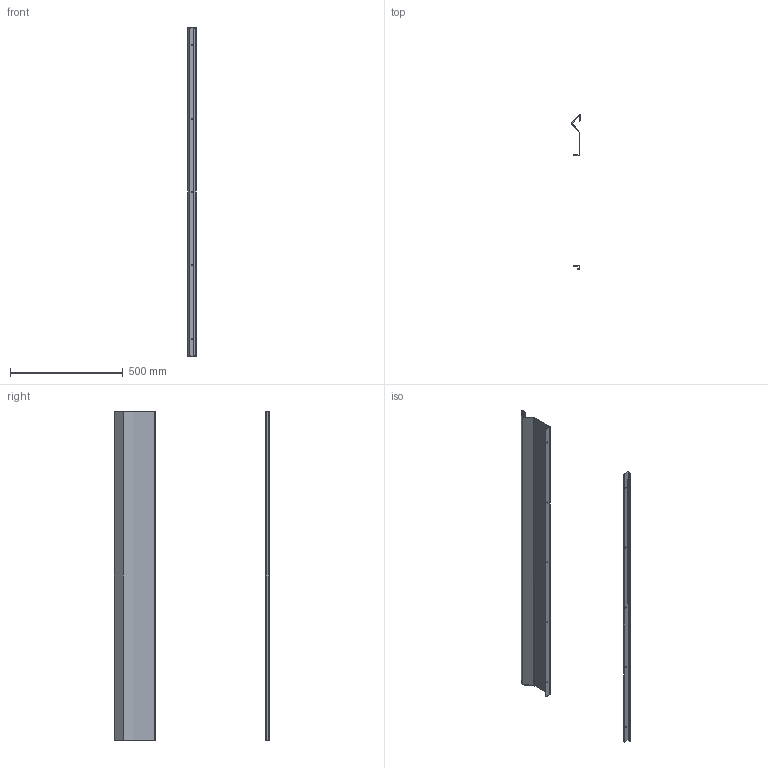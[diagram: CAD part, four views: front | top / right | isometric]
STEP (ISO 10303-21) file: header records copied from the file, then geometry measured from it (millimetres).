
FILE_DESCRIPTION (( 'STEP AP203' ), '1' );
FILE_NAME ('EUTA0031D.STEP', '2018-07-10T07:24:20', ( '' ), ( '' ), 'SwSTEP 2.0', 'SolidWorks 2017', '' );
FILE_SCHEMA (( 'CONFIG_CONTROL_DESIGN' ));
Length unit declared in the file: millimetre
Products named in the file (3): EUTA0031D; AR_Tamponamenti_lato chiusura_new_Rack_Enux_0800x1600_DEC; AR_Tamponamenti_lato cerniera_new_Rack_Enux_0800x1600_DEC
Assembly tree (2 placements, depth 2):
  EUTA0031D
    AR_Tamponamenti_lato chiusura_new_Rack_Enux_0800x1600_DEC
    AR_Tamponamenti_lato cerniera_new_Rack_Enux_0800x1600_DEC
Bounding box: 36.89 x 687.98 x 1454 mm (x, y, z)
Volume: 920323.7 mm3; surface area: 927299.2 mm2
Topology: 2 solids, 2 shells, 67 faces, 187 edges, 124 vertices
Faces by surface type: cylinder 40, plane 27
Entity records: 2530 total; most frequent: DIRECTION 411, CARTESIAN_POINT 383, ORIENTED_EDGE 374, EDGE_CURVE 187, AXIS2_PLACEMENT_3D 152, VERTEX_POINT 124, LINE 107, VECTOR 107
